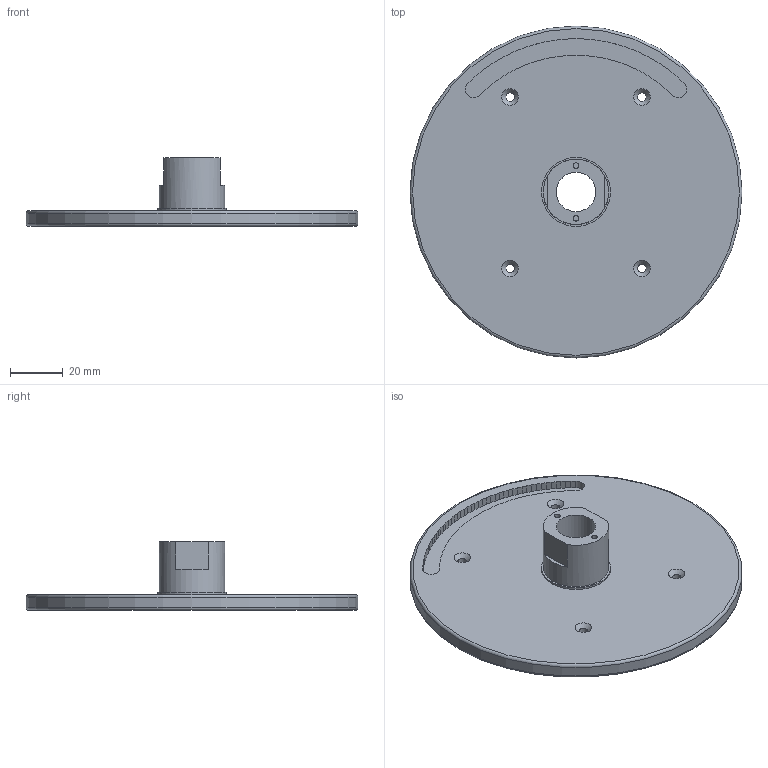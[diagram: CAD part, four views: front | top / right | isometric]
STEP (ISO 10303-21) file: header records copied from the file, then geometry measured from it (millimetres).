
FILE_DESCRIPTION(('Open CASCADE Model'),'2;1');
FILE_NAME('Open CASCADE Shape Model','2026-11-24T20:33:35',('Author'),( 'Open CASCADE'),'Open CASCADE STEP processor 7.8','Open CASCADE 7.8' ,'Unknown');
FILE_SCHEMA(('AUTOMOTIVE_DESIGN { 1 0 10303 214 1 1 1 1 }'));
Length unit declared in the file: millimetre
Products named in the file (1): Open CASCADE STEP translator 7.8 3
Bounding box: 126 x 126 x 26.05 mm (x, y, z)
Volume: 77416.1 mm3; surface area: 30222.9 mm2
Topology: 1 solids, 1 shells, 125 faces, 348 edges, 230 vertices
Faces by surface type: plane 107, cylinder 12, cone 4, torus 2
Full cylindrical faces by diameter (mm): 2.16 x2, 3.32 x4, 15 x1, 24.82 x1, 26.2 x1, 126 x1
Entity records: 8504 total; most frequent: CARTESIAN_POINT 1400, DIRECTION 1332, LINE 980, VECTOR 980, ORIENTED_EDGE 696, PCURVE 696, DEFINITIONAL_REPRESENTATION 696, EDGE_CURVE 348
